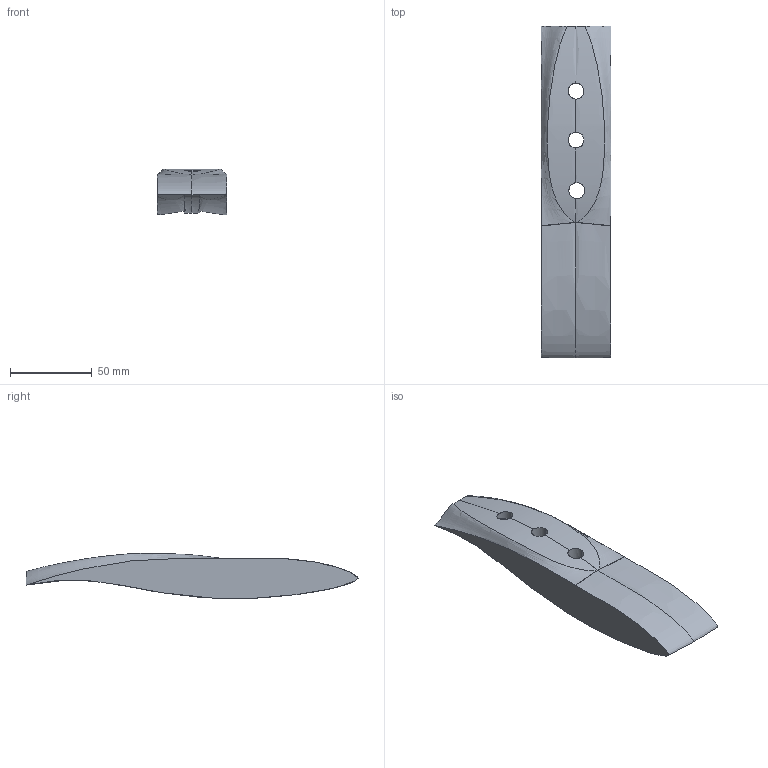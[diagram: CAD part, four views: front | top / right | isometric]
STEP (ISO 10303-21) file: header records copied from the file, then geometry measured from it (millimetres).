
FILE_DESCRIPTION(/* description */ (''),/* implementation_level */ '2;1');
FILE_NAME(/* name */ '1850_osprey_center',/* time_stamp */ '2025-03-24T20:01:04+01:00',/* author */ (''),/* organization */ (''),/* preprocessor_version */ 'ST-DEVELOPER v16.5',/* originating_system */ 'Rhino 7.37',/* authorisation */ '');
FILE_SCHEMA (('CONFIG_CONTROL_DESIGN'));
Length unit declared in the file: millimetre
Products named in the file (1): Document
Bounding box: 42.67 x 203.35 x 27.76 mm (x, y, z)
Volume: 139399.3 mm3; surface area: 26231 mm2
Topology: 1 solids, 1 shells, 50 faces, 136 edges, 80 vertices
Faces by surface type: bspline 50
Entity records: 46618 total; most frequent: CARTESIAN_POINT 44837, B_SPLINE_CURVE_WITH_KNOTS 368, ORIENTED_EDGE 268, PCURVE 268, DEFINITIONAL_REPRESENTATION 268, SURFACE_CURVE 134, EDGE_CURVE 134, VERTEX_POINT 80
